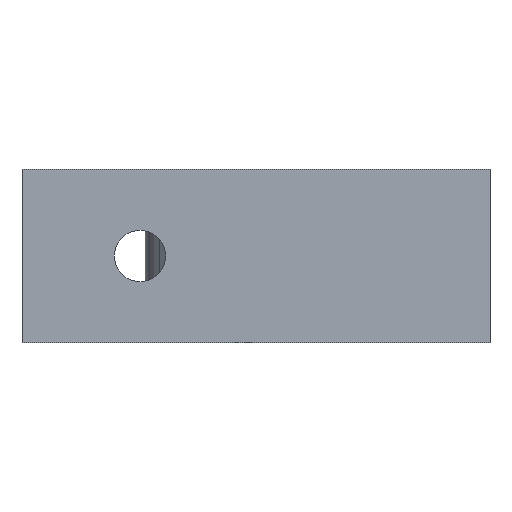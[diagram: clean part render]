
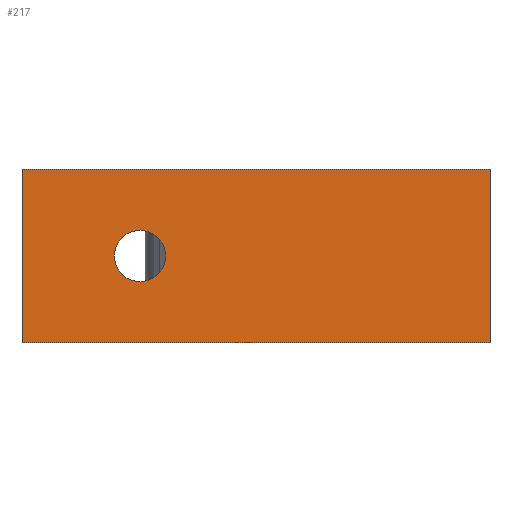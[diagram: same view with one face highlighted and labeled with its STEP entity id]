
A CAD part, front view. The second image highlights one B-rep face of the part: STEP entity #217.
In plain terms, the highlighted planar face has unit normal (0, -1, 0).
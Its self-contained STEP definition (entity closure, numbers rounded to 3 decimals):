
#2 = CARTESIAN_POINT ( 'NONE',  ( 0., 0., 11. ) ) ;
#17 = DIRECTION ( 'NONE',  ( -1., 0., 0. ) ) ;
#32 = DIRECTION ( 'NONE',  ( 0., 1., 0. ) ) ;
#33 = FACE_BOUND ( 'NONE', #206, .T. ) ;
#46 = CARTESIAN_POINT ( 'NONE',  ( 0., 0., -11. ) ) ;
#51 = ORIENTED_EDGE ( 'NONE', *, *, #611, .F. ) ;
#58 = VECTOR ( 'NONE', #263, 1000. ) ;
#62 = DIRECTION ( 'NONE',  ( 0., 0., -1. ) ) ;
#63 = CARTESIAN_POINT ( 'NONE',  ( 59.5, 0., -11. ) ) ;
#65 = FACE_OUTER_BOUND ( 'NONE', #193, .T. ) ;
#83 = DIRECTION ( 'NONE',  ( 0., 1., 0. ) ) ;
#89 = CIRCLE ( 'NONE', #543, 3.25 ) ;
#98 = CARTESIAN_POINT ( 'NONE',  ( 0., 0., 11. ) ) ;
#100 = AXIS2_PLACEMENT_3D ( 'NONE', #98, #32, #592 ) ;
#126 = CARTESIAN_POINT ( 'NONE',  ( 59.5, 0., 11. ) ) ;
#149 = VERTEX_POINT ( 'NONE', #63 ) ;
#154 = VERTEX_POINT ( 'NONE', #2 ) ;
#155 = VECTOR ( 'NONE', #62, 1000. ) ;
#172 = EDGE_CURVE ( 'NONE', #450, #256, #89, .T. ) ;
#177 = AXIS2_PLACEMENT_3D ( 'NONE', #333, #83, #17 ) ;
#181 = ORIENTED_EDGE ( 'NONE', *, *, #409, .T. ) ;
#191 = LINE ( 'NONE', #126, #155 ) ;
#192 = CARTESIAN_POINT ( 'NONE',  ( 15., 0., 0. ) ) ;
#193 = EDGE_LOOP ( 'NONE', ( #352, #51, #605, #181 ) ) ;
#199 = VECTOR ( 'NONE', #400, 1000. ) ;
#206 = EDGE_LOOP ( 'NONE', ( #487, #492 ) ) ;
#213 = CARTESIAN_POINT ( 'NONE',  ( 18.25, 0., 0. ) ) ;
#217 = ADVANCED_FACE ( 'NONE', ( #65, #33 ), #287, .F. ) ;
#224 = EDGE_CURVE ( 'NONE', #256, #450, #618, .T. ) ;
#232 = CARTESIAN_POINT ( 'NONE',  ( 59.5, 0., 11. ) ) ;
#256 = VERTEX_POINT ( 'NONE', #380 ) ;
#263 = DIRECTION ( 'NONE',  ( 1., 0., 0. ) ) ;
#287 = PLANE ( 'NONE',  #100 ) ;
#329 = CARTESIAN_POINT ( 'NONE',  ( 0., 0., -11. ) ) ;
#333 = CARTESIAN_POINT ( 'NONE',  ( 15., 0., 0. ) ) ;
#352 = ORIENTED_EDGE ( 'NONE', *, *, #564, .T. ) ;
#377 = VERTEX_POINT ( 'NONE', #232 ) ;
#380 = CARTESIAN_POINT ( 'NONE',  ( 11.75, 0., 0. ) ) ;
#388 = LINE ( 'NONE', #329, #58 ) ;
#400 = DIRECTION ( 'NONE',  ( 0., 0., -1. ) ) ;
#409 = EDGE_CURVE ( 'NONE', #154, #535, #536, .T. ) ;
#450 = VERTEX_POINT ( 'NONE', #213 ) ;
#473 = CARTESIAN_POINT ( 'NONE',  ( 0., 0., 11. ) ) ;
#475 = DIRECTION ( 'NONE',  ( 1., 0., 0. ) ) ;
#487 = ORIENTED_EDGE ( 'NONE', *, *, #172, .T. ) ;
#491 = DIRECTION ( 'NONE',  ( -1., 0., 0. ) ) ;
#492 = ORIENTED_EDGE ( 'NONE', *, *, #224, .T. ) ;
#515 = EDGE_CURVE ( 'NONE', #154, #377, #603, .T. ) ;
#535 = VERTEX_POINT ( 'NONE', #46 ) ;
#536 = LINE ( 'NONE', #473, #199 ) ;
#539 = CARTESIAN_POINT ( 'NONE',  ( 0., 0., 11. ) ) ;
#543 = AXIS2_PLACEMENT_3D ( 'NONE', #192, #557, #491 ) ;
#552 = VECTOR ( 'NONE', #475, 1000. ) ;
#557 = DIRECTION ( 'NONE',  ( 0., 1., 0. ) ) ;
#564 = EDGE_CURVE ( 'NONE', #535, #149, #388, .T. ) ;
#592 = DIRECTION ( 'NONE',  ( 0., 0., 1. ) ) ;
#603 = LINE ( 'NONE', #539, #552 ) ;
#605 = ORIENTED_EDGE ( 'NONE', *, *, #515, .F. ) ;
#611 = EDGE_CURVE ( 'NONE', #377, #149, #191, .T. ) ;
#618 = CIRCLE ( 'NONE', #177, 3.25 ) ;
